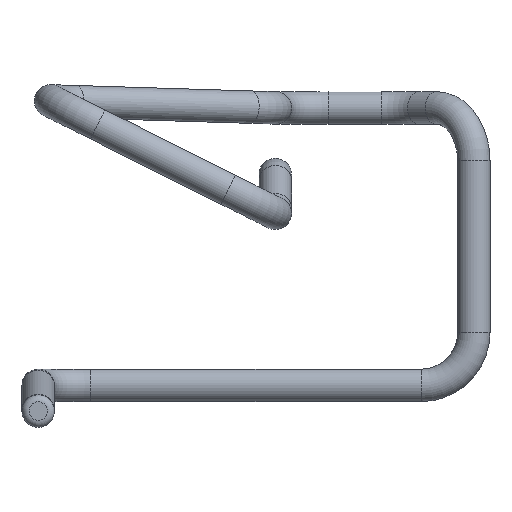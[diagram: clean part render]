
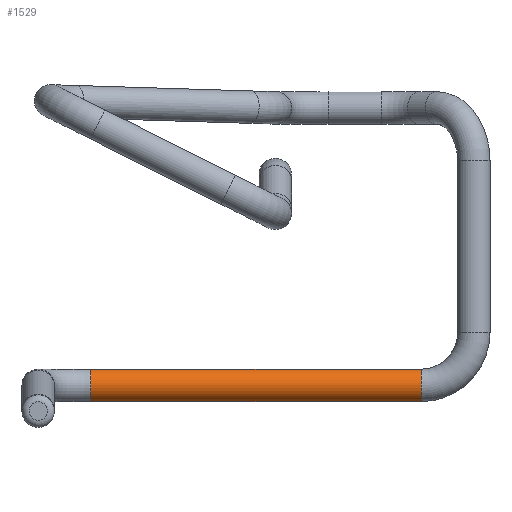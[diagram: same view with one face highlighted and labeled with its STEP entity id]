
A CAD part, front view. The second image highlights one B-rep face of the part: STEP entity #1529.
In plain terms, the highlighted cylindrical face has radius 0.925 mm (diameter 1.85 mm), a full revolution.
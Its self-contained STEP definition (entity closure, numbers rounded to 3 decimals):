
#1115 = TOROIDAL_SURFACE('',#1116,3.,0.925);
#1116 = AXIS2_PLACEMENT_3D('',#1117,#1118,#1119);
#1117 = CARTESIAN_POINT('',(29.3,47.65,-16.3));
#1118 = DIRECTION('',(0.,-1.,0.));
#1119 = DIRECTION('',(0.,0.,-1.));
#1131 = VERTEX_POINT('',#1132);
#1132 = CARTESIAN_POINT('',(29.3,47.65,-18.375));
#1155 = EDGE_CURVE('',#1131,#1131,#1156,.T.);
#1156 = SURFACE_CURVE('',#1157,(#1162,#1168),.PCURVE_S1.);
#1157 = CIRCLE('',#1158,0.925);
#1158 = AXIS2_PLACEMENT_3D('',#1159,#1160,#1161);
#1159 = CARTESIAN_POINT('',(29.3,47.65,-19.3));
#1160 = DIRECTION('',(1.,0.,-0.));
#1161 = DIRECTION('',(0.,0.,1.));
#1162 = PCURVE('',#1115,#1163);
#1163 = DEFINITIONAL_REPRESENTATION('',(#1164),#1167);
#1164 = B_SPLINE_CURVE_WITH_KNOTS('',1,(#1165,#1166),.UNSPECIFIED.,.F.,
  .F.,(2,2),(0.,6.283),.PIECEWISE_BEZIER_KNOTS.);
#1165 = CARTESIAN_POINT('',(0.,9.425));
#1166 = CARTESIAN_POINT('',(0.,3.142));
#1167 = ( GEOMETRIC_REPRESENTATION_CONTEXT(2) 
PARAMETRIC_REPRESENTATION_CONTEXT() REPRESENTATION_CONTEXT('2D SPACE',''
  ) );
#1168 = PCURVE('',#1169,#1174);
#1169 = CYLINDRICAL_SURFACE('',#1170,0.925);
#1170 = AXIS2_PLACEMENT_3D('',#1171,#1172,#1173);
#1171 = CARTESIAN_POINT('',(10.5,47.65,-19.3));
#1172 = DIRECTION('',(1.,0.,0.));
#1173 = DIRECTION('',(0.,0.,1.));
#1174 = DEFINITIONAL_REPRESENTATION('',(#1175),#1179);
#1175 = LINE('',#1176,#1177);
#1176 = CARTESIAN_POINT('',(0.,18.8));
#1177 = VECTOR('',#1178,1.);
#1178 = DIRECTION('',(1.,0.));
#1179 = ( GEOMETRIC_REPRESENTATION_CONTEXT(2) 
PARAMETRIC_REPRESENTATION_CONTEXT() REPRESENTATION_CONTEXT('2D SPACE',''
  ) );
#1228 = TOROIDAL_SURFACE('',#1229,3.,0.925);
#1229 = AXIS2_PLACEMENT_3D('',#1230,#1231,#1232);
#1230 = CARTESIAN_POINT('',(10.5,44.65,-19.3));
#1231 = DIRECTION('',(-0.,0.,-1.));
#1232 = DIRECTION('',(-1.,0.,0.));
#1270 = VERTEX_POINT('',#1271);
#1271 = CARTESIAN_POINT('',(10.5,47.65,-18.375));
#1292 = EDGE_CURVE('',#1270,#1270,#1293,.T.);
#1293 = SURFACE_CURVE('',#1294,(#1299,#1306),.PCURVE_S1.);
#1294 = CIRCLE('',#1295,0.925);
#1295 = AXIS2_PLACEMENT_3D('',#1296,#1297,#1298);
#1296 = CARTESIAN_POINT('',(10.5,47.65,-19.3));
#1297 = DIRECTION('',(-1.,0.,0.));
#1298 = DIRECTION('',(0.,1.,0.));
#1299 = PCURVE('',#1228,#1300);
#1300 = DEFINITIONAL_REPRESENTATION('',(#1301),#1305);
#1301 = LINE('',#1302,#1303);
#1302 = CARTESIAN_POINT('',(1.571,-6.283));
#1303 = VECTOR('',#1304,1.);
#1304 = DIRECTION('',(0.,1.));
#1305 = ( GEOMETRIC_REPRESENTATION_CONTEXT(2) 
PARAMETRIC_REPRESENTATION_CONTEXT() REPRESENTATION_CONTEXT('2D SPACE',''
  ) );
#1306 = PCURVE('',#1169,#1307);
#1307 = DEFINITIONAL_REPRESENTATION('',(#1308),#1311);
#1308 = B_SPLINE_CURVE_WITH_KNOTS('',1,(#1309,#1310),.UNSPECIFIED.,.F.,
  .F.,(2,2),(4.712,10.996),.PIECEWISE_BEZIER_KNOTS.);
#1309 = CARTESIAN_POINT('',(6.283,0.));
#1310 = CARTESIAN_POINT('',(0.,0.));
#1311 = ( GEOMETRIC_REPRESENTATION_CONTEXT(2) 
PARAMETRIC_REPRESENTATION_CONTEXT() REPRESENTATION_CONTEXT('2D SPACE',''
  ) );
#1529 = ADVANCED_FACE('',(#1530),#1169,.T.);
#1530 = FACE_BOUND('',#1531,.T.);
#1531 = EDGE_LOOP('',(#1532,#1552,#1553,#1554));
#1532 = ORIENTED_EDGE('',*,*,#1533,.T.);
#1533 = EDGE_CURVE('',#1270,#1131,#1534,.T.);
#1534 = SEAM_CURVE('',#1535,(#1539,#1546),.PCURVE_S1.);
#1535 = LINE('',#1536,#1537);
#1536 = CARTESIAN_POINT('',(10.5,47.65,-18.375));
#1537 = VECTOR('',#1538,1.);
#1538 = DIRECTION('',(1.,0.,0.));
#1539 = PCURVE('',#1169,#1540);
#1540 = DEFINITIONAL_REPRESENTATION('',(#1541),#1545);
#1541 = LINE('',#1542,#1543);
#1542 = CARTESIAN_POINT('',(6.283,0.));
#1543 = VECTOR('',#1544,1.);
#1544 = DIRECTION('',(0.,1.));
#1545 = ( GEOMETRIC_REPRESENTATION_CONTEXT(2) 
PARAMETRIC_REPRESENTATION_CONTEXT() REPRESENTATION_CONTEXT('2D SPACE',''
  ) );
#1546 = PCURVE('',#1169,#1547);
#1547 = DEFINITIONAL_REPRESENTATION('',(#1548),#1551);
#1548 = B_SPLINE_CURVE_WITH_KNOTS('',1,(#1549,#1550),.UNSPECIFIED.,.F.,
  .F.,(2,2),(0.,18.8),.PIECEWISE_BEZIER_KNOTS.);
#1549 = CARTESIAN_POINT('',(0.,0.));
#1550 = CARTESIAN_POINT('',(0.,18.8));
#1551 = ( GEOMETRIC_REPRESENTATION_CONTEXT(2) 
PARAMETRIC_REPRESENTATION_CONTEXT() REPRESENTATION_CONTEXT('2D SPACE',''
  ) );
#1552 = ORIENTED_EDGE('',*,*,#1155,.F.);
#1553 = ORIENTED_EDGE('',*,*,#1533,.F.);
#1554 = ORIENTED_EDGE('',*,*,#1292,.F.);
